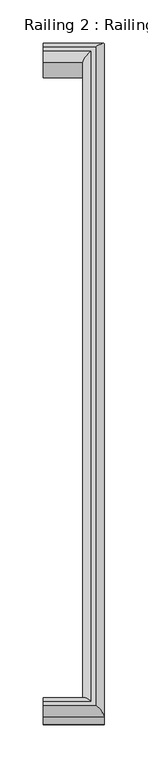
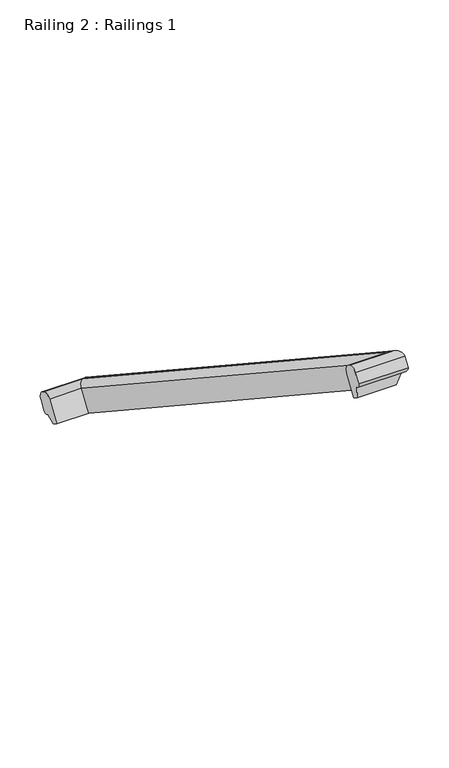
"""IFC4 building model written with IfcOpenShell, lengths in millimetres: railing geometry, Railing 2 : Railings 1."""

import ifcopenshell
import ifcopenshell.guid

model = None  # the IFC model being written
_history = None  # IfcOwnerHistory: only IFC2X3 demands one
_inside = {}  # id of a spatial element -> (the spatial element, [elements in it])
_under = {}  # id of a project, library or spatial element -> (it, [spatial elements below it])
_declared = {}  # id of a project -> (the project, [libraries it declares])
_typed = {}  # id of a type object -> (the type object, [elements of that type])
_made_of = {}  # id of a material, layer set ... -> (it, [elements and type objects made of it])


def new_model(schema):
    """Start an empty IFC model of exactly this schema.

    Asked for "IFC4X3", IfcOpenShell would pick the latest addendum, in which some entities
    have other attributes; the version numbers below select the first issue.
    IFC2X3 requires an IfcOwnerHistory on every rooted entity: one is made here for all.
    """
    global model, _history
    if schema == "IFC4X3":
        model = ifcopenshell.file(schema_version=(4, 3, 0, 0))
    else:
        model = ifcopenshell.file(schema=schema)
    _inside.clear()
    _under.clear()
    _declared.clear()
    _typed.clear()
    _made_of.clear()
    _history = None
    if model.schema == "IFC2X3":
        org = make("IfcOrganization", Name="unknown")
        user = make(
            "IfcPersonAndOrganization",
            ThePerson=make("IfcPerson", FamilyName="unknown"),
            TheOrganization=org,
        )
        app = make(
            "IfcApplication",
            ApplicationDeveloper=org,
            Version="unknown",
            ApplicationFullName="unknown",
            ApplicationIdentifier="unknown",
        )
        _history = make(
            "IfcOwnerHistory",
            OwningUser=user,
            OwningApplication=app,
            ChangeAction="ADDED",
            CreationDate=0,
        )
    return model


def make(cls, **values):
    """One entity of the class cls with the attributes given. An attribute that is None is left unset."""
    return model.create_entity(
        cls, **{name: value for name, value in values.items() if value is not None}
    )


def rooted(cls, **values):
    """An entity with a GlobalId (a new one), such as an element, a storey or a relation."""
    return make(cls, GlobalId=ifcopenshell.guid.new(), OwnerHistory=_history, **values)


def si_unit(unit_type, name, prefix=None):
    """IfcSIUnit, for example si_unit("LENGTHUNIT", "METRE", prefix="MILLI")."""
    return make("IfcSIUnit", UnitType=unit_type, Prefix=prefix, Name=name)


def assignment(units):
    """IfcUnitAssignment: the units of a project."""
    return None if units is None else make("IfcUnitAssignment", Units=units)


def point(xyz):
    """IfcCartesianPoint."""
    return None if xyz is None else make("IfcCartesianPoint", Coordinates=xyz)


def direction(xyz):
    """IfcDirection."""
    return None if xyz is None else make("IfcDirection", DirectionRatios=xyz)


def frame(location, z_axis=None, x_axis=None):
    """IfcAxis2Placement3D, a coordinate frame: its origin and axes. An axis left out is left unset."""
    return make(
        "IfcAxis2Placement3D",
        Location=point(location),
        Axis=direction(z_axis),
        RefDirection=direction(x_axis),
    )


def origin():
    """The frame at (0, 0, 0) with its axes left unset."""
    return frame((0.0, 0.0, 0.0))


def place(relative_to, where):
    """IfcLocalPlacement: puts the frame where relative to a parent placement (None: the world)."""
    return make(
        "IfcLocalPlacement", PlacementRelTo=relative_to, RelativePlacement=where
    )


def context(
    kind, dimensions, precision=None, world=None, true_north=None, identifier=None
):
    """IfcGeometricRepresentationContext, for example the 3D "Model" context."""
    return make(
        "IfcGeometricRepresentationContext",
        ContextIdentifier=identifier,
        ContextType=kind,
        CoordinateSpaceDimension=dimensions,
        Precision=precision,
        WorldCoordinateSystem=world,
        TrueNorth=true_north,
    )


def project(units=None, contexts=None):
    """IfcProject with its units and contexts."""
    return rooted(
        "IfcProject",
        Name="project",
        RepresentationContexts=contexts,
        UnitsInContext=assignment(units),
    )


def spatial(cls, under=None, at=None, **own):
    """A site, building, storey or space (cls), placed at a placement, below another one or the project."""
    s = rooted(cls, ObjectPlacement=at, **own)
    if under is not None:
        _under.setdefault(under.id(), (under, []))[1].append(s)
    return s


def circle_curve(where, radius):
    """IfcCircle in the frame where."""
    return make("IfcCircle", Position=where, Radius=radius)


def ellipse_curve(where, semi_axis1, semi_axis2):
    """IfcEllipse in the frame where."""
    return make(
        "IfcEllipse", Position=where, SemiAxis1=semi_axis1, SemiAxis2=semi_axis2
    )


def shape(context_of_items, identifier, shape_type, items):
    """IfcShapeRepresentation: the items that make up one representation, for example the "Body"."""
    return make(
        "IfcShapeRepresentation",
        ContextOfItems=context_of_items,
        RepresentationIdentifier=identifier,
        RepresentationType=shape_type,
        Items=items,
    )


def source(mapping_origin, context_of_items, identifier, shape_type, items):
    """IfcRepresentationMap: a shape defined once, which mapped items show again and again."""
    return make(
        "IfcRepresentationMap",
        MappingOrigin=mapping_origin,
        MappedRepresentation=shape(context_of_items, identifier, shape_type, items),
    )


def transform(
    local_origin,
    x_axis=None,
    y_axis=None,
    z_axis=None,
    scale=None,
    scale2=None,
    scale3=None,
    uniform=True,
):
    """IfcCartesianTransformationOperator3D, or its non-uniform kind. x_axis, y_axis, z_axis: its Axis1, 2, 3."""
    if uniform:
        return make(
            "IfcCartesianTransformationOperator3D",
            Axis1=direction(x_axis),
            Axis2=direction(y_axis),
            LocalOrigin=point(local_origin),
            Scale=scale,
            Axis3=direction(z_axis),
        )
    return make(
        "IfcCartesianTransformationOperator3DnonUniform",
        Axis1=direction(x_axis),
        Axis2=direction(y_axis),
        LocalOrigin=point(local_origin),
        Scale=scale,
        Axis3=direction(z_axis),
        Scale2=scale2,
        Scale3=scale3,
    )


def mapped(mapping_source, mapping_target):
    """IfcMappedItem: shows the shape of a source again, moved by a transform."""
    return make(
        "IfcMappedItem", MappingSource=mapping_source, MappingTarget=mapping_target
    )


def made_of(thing, what):
    """Note that an element or type object is made of a material, layer set ...; save() writes the relation."""
    if what is not None:
        _made_of.setdefault(what.id(), (what, []))[1].append(thing)
    return thing


def element(
    cls,
    number,
    at=None,
    inside=None,
    cuts=None,
    type_object=None,
    material=None,
    context=None,
    identifier="Body",
    shape_type=None,
    held_by="IfcProductDefinitionShape",
    body=None,
    shapes=None,
    **own,
):
    """One element of the class cls, such as IfcWall. Its Tag is "e" and its number.

    at: its placement. inside: the storey or other place that contains it. cuts: it is an
    opening in that element (IfcRelVoidsElement). A single representation is given by context,
    identifier, shape_type and body (its items); several are given by shapes. held_by: the class
    of the entity that holds the representations. save() writes the other relations.
    """
    e = rooted(cls, Tag="e%d" % number, ObjectPlacement=at, **own)
    if body is not None:
        shapes = [shape(context, identifier, shape_type, body)]
    if shapes is not None:
        e.Representation = make(held_by, Representations=shapes)
    if inside is not None:
        _inside.setdefault(inside.id(), (inside, []))[1].append(e)
    if cuts is not None:
        rooted(
            "IfcRelVoidsElement", RelatingBuildingElement=cuts, RelatedOpeningElement=e
        )
    if type_object is not None:
        _typed.setdefault(type_object.id(), (type_object, []))[1].append(e)
    return made_of(e, material)


def aggregate(whole, parts):
    """IfcRelAggregates: a whole, such as a stair, and the parts it consists of."""
    return rooted("IfcRelAggregates", RelatingObject=whole, RelatedObjects=parts)


def save(model, path):
    """Write the relations noted so far, then the file.

    IfcRelAggregates (storeys below a building ...), IfcRelContainedInSpatialStructure (elements
    in a storey), IfcRelDefinesByType, IfcRelAssociatesMaterial and IfcRelDeclares: one each for
    every whole, place, type object, material and project.
    """
    for whole, parts in _under.values():
        aggregate(whole, parts)
    for where, things in _inside.values():
        rooted(
            "IfcRelContainedInSpatialStructure",
            RelatedElements=things,
            RelatingStructure=where,
        )
    for kind, things in _typed.values():
        rooted("IfcRelDefinesByType", RelatedObjects=things, RelatingType=kind)
    for what, things in _made_of.values():
        rooted("IfcRelAssociatesMaterial", RelatedObjects=things, RelatingMaterial=what)
    for by, libraries in _declared.values():
        rooted("IfcRelDeclares", RelatingContext=by, RelatedDefinitions=libraries)
    model.write(path)


def plane_surface(at):
    """IfcPlane: the flat surface through the origin of the frame at, square to its z axis."""
    return make("IfcPlane", Position=at)


def cylinder_surface(at, radius):
    """IfcCylindricalSurface: all points at the distance radius from the z axis of the frame at."""
    return make("IfcCylindricalSurface", Position=at, Radius=radius)


def advanced_brep(points, edges, surfaces, faces):
    """IfcAdvancedBrep: a solid bounded by faces that lie on surfaces and meet in shared edges.

    An edge is (start, end): straight between two places in points (the first is 0);
    or (start, end, curve); or (start, end, curve, False) where it runs against its curve.
    A face is (place in surfaces, loops), or (place, loops, False) where it looks against
    its surface's normal. A loop lists edges by number (the first is 1), with a minus sign
    where the edge is run from its end to its start. The first loop is the outer one.
    """
    corners = [point(p) for p in points]
    vertices = [make("IfcVertexPoint", VertexGeometry=c) for c in corners]
    made = []
    for start, end, *more in edges:
        made.append(
            make(
                "IfcEdgeCurve",
                EdgeStart=vertices[start],
                EdgeEnd=vertices[end],
                EdgeGeometry=more[0] if more else make("IfcPolyline", Points=[corners[start], corners[end]]),
                SameSense=more[1] if len(more) > 1 else True,
            )
        )
    hull = []
    for where, loops, *sense in faces:
        bounds = []
        for j, loop in enumerate(loops):
            ring = [make("IfcOrientedEdge", EdgeElement=made[abs(k) - 1], Orientation=k > 0) for k in loop]
            bounds.append(
                make(
                    "IfcFaceOuterBound" if j == 0 else "IfcFaceBound",
                    Bound=make("IfcEdgeLoop", EdgeList=ring),
                    Orientation=True,
                )
            )
        hull.append(make("IfcAdvancedFace", Bounds=bounds, FaceSurface=surfaces[where], SameSense=sense[0] if sense else True))
    return make("IfcAdvancedBrep", Outer=make("IfcClosedShell", CfsFaces=hull))


def railing_2_railings_1_0df469a2(model_context):
    return source(origin(), model_context, "Body", "AdvancedBrep", [
        advanced_brep(
        [(6012.5966269, 4560.3360746, 1514.5665555), (6012.5966269, 4568.3668084, 1526.7504618), (6012.5966269, 4582.2195944, 1529.5965679), (6012.5966269, 4586.3943174, 1526.8448979), (6012.5966269, 4589.2404235, 1512.9921119), (6012.5966269, 4571.7726127, 1486.490652), (6012.5966269, 4563.4231667, 1491.993992), (6012.5966269, 4564.3101305, 1506.9677455), (6012.5966269, 4561.519351, 1508.8072218), (6075.7400418, 4564.3101305, 1506.9677455), (6075.7400418, 5329.1700234, 1002.8284285), (6012.5966269, 5329.1700234, 1002.8284285), (6012.5966269, 5331.9608029, 1000.9889522), (6079.0825144, 5331.9608029, 1000.9889522), (6079.0825144, 4561.519351, 1508.8072218), (6068.2400418, 4563.4231667, 1491.993992), (6058.2400418, 4571.7726127, 1486.490652), (6058.2400418, 5307.4094445, 1001.6130249), (6012.5966269, 5307.4094445, 1001.6130249), (6012.5966269, 5315.7588906, 996.1096849), (6068.2400418, 5315.7588906, 996.1096849), (6058.2400418, 4589.2404235, 1512.9921119), (6073.2400418, 4582.2195944, 1529.5965679), (6073.2400418, 5342.9047644, 1028.2089209), (6012.5966269, 5342.9047644, 1028.2089209), (6012.5966269, 5338.7300413, 1030.9605908), (6068.2400418, 5338.7300413, 1030.9605908), (6068.2400418, 4586.3943174, 1526.8448979), (6083.2400418, 4560.3360746, 1514.5665555), (6083.2400418, 4568.3668084, 1526.7504618), (6058.2400418, 5324.8772553, 1028.1144848), (6083.2400418, 5337.7201366, 1002.1722286), (6083.2400418, 5345.7508704, 1014.3561348), (6012.5966269, 5337.7201366, 1002.1722286), (6012.5966269, 5324.8772553, 1028.1144848), (6012.5966269, 5345.7508704, 1014.3561348)],
        [
            (0, 1),
            (1, 2, circle_curve(frame((6012.5966269, 4576.7162544, 1521.2471218), z_axis=(-1.0, 0.0, 0.0), x_axis=(0.0, -0.8349446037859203, 0.5503339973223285)), 10.0)),
            (2, 3),
            (3, 4, circle_curve(frame((6012.5966269, 4580.8909775, 1518.4954518), z_axis=(-1.0, 0.0, 0.0), x_axis=(0.0, -0.8349446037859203, 0.5503339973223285)), 10.0)),
            (4, 5),
            (5, 6),
            (6, 7),
            (7, 8),
            (8, 0, circle_curve(frame((6012.5966269, 4563.8073797, 1512.2785269), z_axis=(-1.0, 0.0, 0.0), x_axis=(0.0, -0.8349446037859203, 0.5503339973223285)), 4.1575274)),
            (7, 9),
            (9, 10),
            (10, 11),
            (11, 12),
            (12, 13),
            (13, 14),
            (14, 8),
            (6, 15),
            (15, 9),
            (5, 16),
            (16, 17),
            (17, 18),
            (18, 19),
            (19, 20),
            (20, 15),
            (4, 21),
            (21, 16),
            (2, 22),
            (22, 23),
            (23, 24),
            (24, 25),
            (25, 26),
            (26, 27),
            (27, 3),
            (0, 28),
            (28, 29),
            (29, 1),
            (20, 10),
            (21, 30),
            (30, 17),
            (28, 31),
            (31, 32),
            (32, 29),
            (33, 12, circle_curve(frame((6012.5966269, 5334.2488316, 1004.4602572), z_axis=(-1.0, 0.0, 0.0), x_axis=(0.0, 0.8349446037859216, -0.5503339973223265)), 4.1575274)),
            (11, 19),
            (18, 34),
            (34, 25, circle_curve(frame((6012.5966269, 5333.2267014, 1022.6111448), z_axis=(-1.0, 0.0, 0.0), x_axis=(0.0, 0.8349446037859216, -0.5503339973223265)), 10.0)),
            (24, 35, circle_curve(frame((6012.5966269, 5337.4014244, 1019.8594748), z_axis=(-1.0, 0.0, 0.0), x_axis=(0.0, 0.8349446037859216, -0.5503339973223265)), 10.0)),
            (35, 33),
            (30, 34),
            (31, 33),
            (35, 32),
            (27, 21, ellipse_curve(frame((6068.2400418, 4580.8909775, 1518.4954518), z_axis=(-0.7071067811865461, -0.5903949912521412, 0.3891449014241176), x_axis=(-0.7071067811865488, 0.5903949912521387, -0.38914490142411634)), 14.1421356, 10.0)),
            (29, 22, ellipse_curve(frame((6073.2400418, 4576.7162544, 1521.2471218), z_axis=(-0.7071067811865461, -0.5903949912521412, 0.3891449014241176), x_axis=(-0.7071067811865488, 0.5903949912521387, -0.38914490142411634)), 14.1421356, 10.0)),
            (26, 30, ellipse_curve(frame((6068.2400418, 5333.2267014, 1022.6111448), z_axis=(0.7071067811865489, -0.5903949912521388, 0.3891449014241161), x_axis=(-0.7071067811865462, -0.5903949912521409, 0.3891449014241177)), 14.1421356, 10.0)),
            (32, 23, ellipse_curve(frame((6073.2400418, 5337.4014244, 1019.8594748), z_axis=(0.7071067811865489, -0.5903949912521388, 0.3891449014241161), x_axis=(-0.7071067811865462, -0.5903949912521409, 0.3891449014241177)), 14.1421356, 10.0)),
            (14, 28, ellipse_curve(frame((6079.0825144, 4563.8073797, 1512.2785269), z_axis=(-0.7071067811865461, -0.5903949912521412, 0.3891449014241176), x_axis=(-0.7071067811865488, 0.5903949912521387, -0.38914490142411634)), 5.8796316, 4.1575274)),
            (13, 31, ellipse_curve(frame((6079.0825144, 5334.2488316, 1004.4602572), z_axis=(0.7071067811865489, -0.5903949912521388, 0.3891449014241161), x_axis=(-0.7071067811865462, -0.5903949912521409, 0.3891449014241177)), 5.8796316, 4.1575274)),
        ],
        [
            plane_surface(frame((6012.5966269, 4558.048046, 1511.0952505), z_axis=(-1.0, 0.0, 0.0), x_axis=(0.0, 0.5503339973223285, 0.8349446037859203))),
            plane_surface(frame((6012.5966269, 4564.3101305, 1506.9677455), z_axis=(0.0, -0.5503339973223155, -0.8349446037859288), x_axis=(1.0, 0.0, 0.0))),
            plane_surface(frame((6012.5966269, 4563.4231667, 1491.993992), z_axis=(0.0, -0.9982502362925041, 0.05913092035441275), x_axis=(1.0, 0.0, 0.0))),
            plane_surface(frame((6012.5966269, 4571.7726127, 1486.490652), z_axis=(0.0, -0.5503339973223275, -0.834944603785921), x_axis=(1.0, 0.0, 0.0))),
            plane_surface(frame((6012.5966269, 4589.2404235, 1512.9921119), z_axis=(0.0, 0.8349446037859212, -0.5503339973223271), x_axis=(1.0, 0.0, 0.0))),
            plane_surface(frame((6012.5966269, 4582.2195944, 1529.5965679), z_axis=(0.0, 0.5503339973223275, 0.834944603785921), x_axis=(1.0, 0.0, 0.0))),
            plane_surface(frame((6012.5966269, 4560.3360746, 1514.5665555), z_axis=(0.0, -0.8349446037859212, 0.5503339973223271), x_axis=(1.0, 0.0, 0.0))),
            plane_surface(frame((6068.2400418, 4563.4231667, 1491.993992), z_axis=(0.866025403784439, -0.2751669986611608, -0.41747230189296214), x_axis=(0.0, 0.8349446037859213, -0.5503339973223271))),
            plane_surface(frame((6058.2400418, 4589.2404235, 1512.9921119), z_axis=(-1.0, 0.0, 0.0), x_axis=(0.0, 0.8349446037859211, -0.5503339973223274))),
            plane_surface(frame((6083.2400418, 4560.3360746, 1514.5665555), z_axis=(1.0, 0.0, 0.0), x_axis=(0.0, 0.8349446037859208, -0.5503339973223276))),
            plane_surface(frame((6012.5966269, 5335.432108, 998.7009235), z_axis=(-1.0, 0.0, 0.0), x_axis=(0.0, 0.5503339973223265, 0.8349446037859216))),
            plane_surface(frame((6068.2400418, 5315.7588906, 996.1096849), z_axis=(0.0, 0.447916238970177, -0.8940755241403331), x_axis=(-1.0, 0.0, 0.0))),
            plane_surface(frame((6058.2400418, 5324.8772553, 1028.1144848), z_axis=(0.0, -0.8349446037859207, 0.5503339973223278), x_axis=(-1.0, 0.0, 0.0))),
            plane_surface(frame((6083.2400418, 5337.7201366, 1002.1722286), z_axis=(0.0, 0.8349446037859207, -0.5503339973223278), x_axis=(-1.0, 0.0, 0.0))),
            cylinder_surface(frame((6012.5966269, 4580.8909775, 1518.4954518), z_axis=(-1.0, 0.0, 0.0), x_axis=(0.0, -0.8349446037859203, 0.5503339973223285)), 10.0),
            cylinder_surface(frame((6012.5966269, 4576.7162544, 1521.2471218), z_axis=(-1.0, 0.0, 0.0), x_axis=(0.0, -0.8349446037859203, 0.5503339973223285)), 10.0),
            cylinder_surface(frame((6068.2400418, 4568.3668084, 1526.7504618), z_axis=(0.0, -0.8349446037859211, 0.5503339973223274), x_axis=(1.0, 0.0, 0.0)), 10.0),
            cylinder_surface(frame((6073.2400418, 4568.3668084, 1526.7504618), z_axis=(0.0, -0.8349446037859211, 0.5503339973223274), x_axis=(1.0, 0.0, 0.0)), 10.0),
            cylinder_surface(frame((6083.2400418, 5333.2267014, 1022.6111448), z_axis=(1.0, 0.0, 0.0), x_axis=(0.0, 0.8349446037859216, -0.5503339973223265)), 10.0),
            cylinder_surface(frame((6083.2400418, 5337.4014244, 1019.8594748), z_axis=(1.0, 0.0, 0.0), x_axis=(0.0, 0.8349446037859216, -0.5503339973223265)), 10.0),
            cylinder_surface(frame((6012.5966269, 4563.8073797, 1512.2785269), z_axis=(-1.0, 0.0, 0.0), x_axis=(0.0, -0.8349446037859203, 0.5503339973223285)), 4.1575274),
            cylinder_surface(frame((6079.0825144, 4560.3360746, 1514.5665555), z_axis=(0.0, -0.8349446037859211, 0.5503339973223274), x_axis=(1.0, 0.0, 0.0)), 4.1575274),
            cylinder_surface(frame((6083.2400418, 5334.2488316, 1004.4602572), z_axis=(1.0, 0.0, 0.0), x_axis=(0.0, 0.8349446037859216, -0.5503339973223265)), 4.1575274),
        ],
        [
            (0, [[1, 2, 3, 4, 5, 6, 7, 8, 9]]),
            (1, [[-8, 10, 11, 12, 13, 14, 15, 16]]),
            (2, [[-7, 17, 18, -10]]),
            (3, [[-6, 19, 20, 21, 22, 23, 24, -17]]),
            (4, [[-5, 25, 26, -19]]),
            (5, [[-3, 27, 28, 29, 30, 31, 32, 33]]),
            (6, [[-1, 34, 35, 36]]),
            (7, [[-18, -24, 37, -11]]),
            (8, [[-26, 38, 39, -20]]),
            (9, [[-35, 40, 41, 42]]),
            (10, [[43, -13, 44, -22, 45, 46, -30, 47, 48]]),
            (11, [[-37, -23, -44, -12]]),
            (12, [[-39, 49, -45, -21]]),
            (13, [[-41, 50, -48, 51]]),
            (14, [[-4, -33, 52, -25]]),
            (15, [[-2, -36, 53, -27]]),
            (16, [[-52, -32, 54, -38]]),
            (17, [[-53, -42, 55, -28]]),
            (18, [[-54, -31, -46, -49]]),
            (19, [[-55, -51, -47, -29]]),
            (20, [[-9, -16, 56, -34]]),
            (21, [[-56, -15, 57, -40]]),
            (22, [[-57, -14, -43, -50]]),
        ],
    ),
    ])


if __name__ == "__main__":
    model = new_model("IFC4")
    model_context = context("Model", 3, world=origin())
    ifc_project = project(units=[si_unit("LENGTHUNIT", "METRE", prefix="MILLI")], contexts=[model_context])
    site = spatial("IfcSite", under=ifc_project)
    building = spatial("IfcBuilding", under=site)
    placement = place(None, origin())
    railing_2_railings_1_shape = railing_2_railings_1_0df469a2(model_context)
    element("IfcRailing", 1, ObjectType="Railing 2 : Railings 1", at=placement, inside=building, context=model_context, shape_type="MappedRepresentation", body=[
        mapped(railing_2_railings_1_shape, transform((0.0, 0.0, 0.0), x_axis=(1.0, 0.0, 0.0), y_axis=(0.0, 1.0, 0.0), z_axis=(0.0, 0.0, 1.0))),
    ])
    save(model, "model.ifc")
